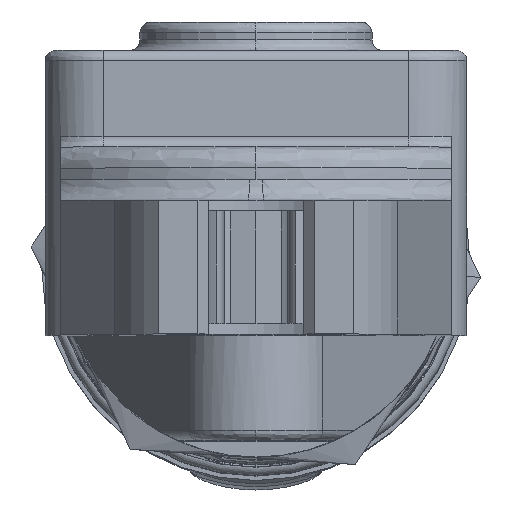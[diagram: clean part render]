
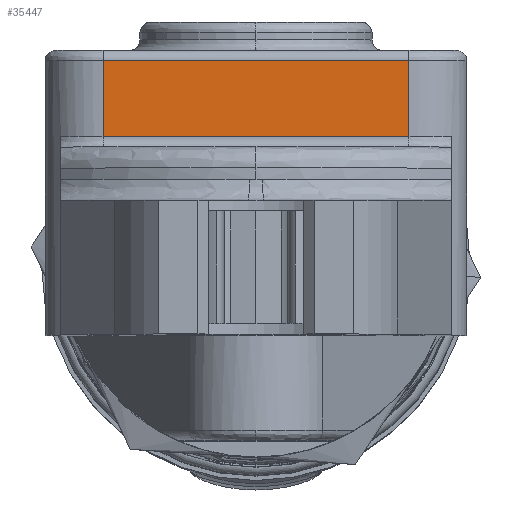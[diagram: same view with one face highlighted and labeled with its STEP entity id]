
A CAD part, top view. The second image highlights one B-rep face of the part: STEP entity #35447.
In plain terms, the highlighted planar face has unit normal (0, 0, 1).
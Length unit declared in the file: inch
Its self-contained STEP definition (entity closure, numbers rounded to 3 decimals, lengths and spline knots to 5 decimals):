
#1628 = FACE_OUTER_BOUND ( 'NONE', #24245, .T. ) ;
#2674 = VECTOR ( 'NONE', #9847, 39.37008 ) ;
#7357 = LINE ( 'NONE', #39353, #8616 ) ;
#7572 = LINE ( 'NONE', #21065, #44522 ) ;
#8616 = VECTOR ( 'NONE', #53321, 39.37008 ) ;
#9847 = DIRECTION ( 'NONE',  ( 1., 0., 0. ) ) ;
#10346 = VERTEX_POINT ( 'NONE', #58838 ) ;
#11170 = DIRECTION ( 'NONE',  ( 0., -1., 0. ) ) ;
#11438 = EDGE_CURVE ( 'NONE', #21117, #25979, #15034, .T. ) ;
#14984 = DIRECTION ( 'NONE',  ( 0., 0., -1. ) ) ;
#15034 = LINE ( 'NONE', #52112, #2674 ) ;
#19787 = VECTOR ( 'NONE', #11170, 39.37008 ) ;
#21065 = CARTESIAN_POINT ( 'NONE',  ( 0.57087, 0.50121, 5.38024 ) ) ;
#21117 = VERTEX_POINT ( 'NONE', #32654 ) ;
#24245 = EDGE_LOOP ( 'NONE', ( #45746, #28977, #38965, #40552 ) ) ;
#25979 = VERTEX_POINT ( 'NONE', #53213 ) ;
#26197 = DIRECTION ( 'NONE',  ( -1., 0., 0. ) ) ;
#27310 = CARTESIAN_POINT ( 'NONE',  ( 0.57087, 0.50121, 5.38024 ) ) ;
#28087 = EDGE_CURVE ( 'NONE', #56117, #10346, #7572, .T. ) ;
#28977 = ORIENTED_EDGE ( 'NONE', *, *, #56538, .F. ) ;
#32654 = CARTESIAN_POINT ( 'NONE',  ( -0.57087, 0.78547, 5.38024 ) ) ;
#33570 = EDGE_CURVE ( 'NONE', #25979, #56117, #38540, .T. ) ;
#33826 = DIRECTION ( 'NONE',  ( 0., -1., 0. ) ) ;
#35447 = ADVANCED_FACE ( 'NONE', ( #1628 ), #56637, .F. ) ;
#38540 = LINE ( 'NONE', #57086, #19787 ) ;
#38965 = ORIENTED_EDGE ( 'NONE', *, *, #28087, .F. ) ;
#39353 = CARTESIAN_POINT ( 'NONE',  ( -0.57087, 0.82484, 5.38024 ) ) ;
#40552 = ORIENTED_EDGE ( 'NONE', *, *, #33570, .F. ) ;
#44522 = VECTOR ( 'NONE', #26197, 39.37008 ) ;
#45746 = ORIENTED_EDGE ( 'NONE', *, *, #11438, .F. ) ;
#52112 = CARTESIAN_POINT ( 'NONE',  ( 0.57087, 0.78547, 5.38024 ) ) ;
#53213 = CARTESIAN_POINT ( 'NONE',  ( 0.57087, 0.78547, 5.38024 ) ) ;
#53321 = DIRECTION ( 'NONE',  ( 0., 1., 0. ) ) ;
#56117 = VERTEX_POINT ( 'NONE', #27310 ) ;
#56538 = EDGE_CURVE ( 'NONE', #10346, #21117, #7357, .T. ) ;
#56637 = PLANE ( 'NONE',  #57069 ) ;
#57069 = AXIS2_PLACEMENT_3D ( 'NONE', #57240, #14984, #33826 ) ;
#57086 = CARTESIAN_POINT ( 'NONE',  ( 0.57087, 0.82484, 5.38024 ) ) ;
#57240 = CARTESIAN_POINT ( 'NONE',  ( 0.57087, 0.82484, 5.38024 ) ) ;
#58838 = CARTESIAN_POINT ( 'NONE',  ( -0.57087, 0.50121, 5.38024 ) ) ;
